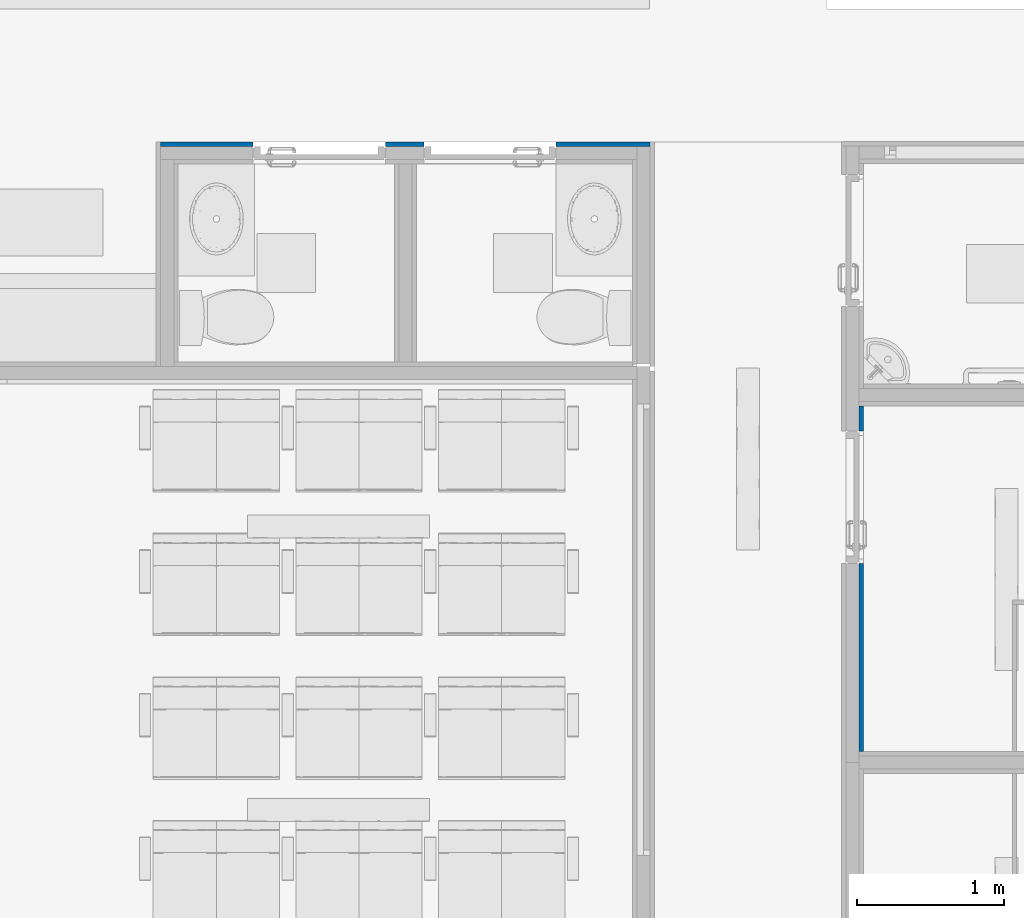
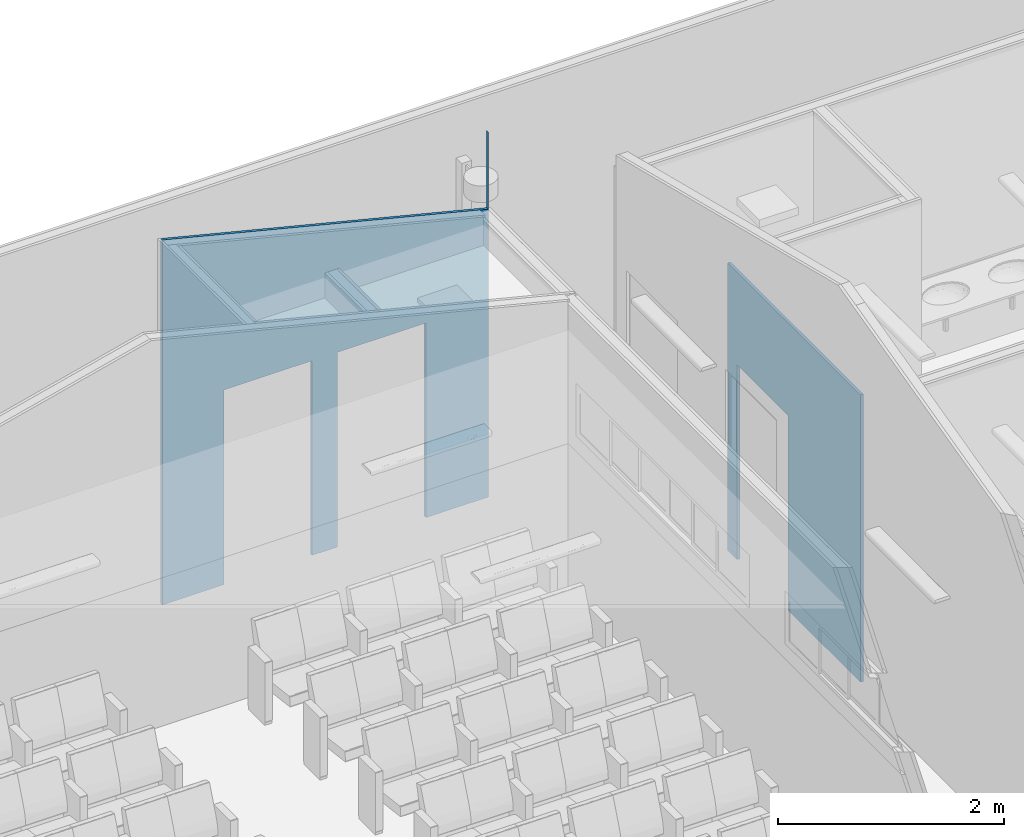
# One storey, part 33 of 155: 2 walls, 3 openings.
"""IFC2X3 building model written with IfcOpenShell, lengths in metres."""

from ifc_helpers import new_model, entity, si_unit, converted_unit, derived_unit, direction, frame, frame_2d, origin, place, context, subcontext, project, spatial, polyline, rectangle, extrude, clip, bounded_halfspace, material, layer, layer_set, layer_usage, type_object, element, save


model = new_model("IFC2X3")

# Units and contexts
model_context = context("Model", 3, precision=1e-05, world=origin(), true_north=direction((6.12303176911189e-17, 1.0)))
body_context = subcontext(model_context, "Body", "Model", "MODEL_VIEW")
ifc_project = project(units=[si_unit("LENGTHUNIT", "METRE"), si_unit("AREAUNIT", "SQUARE_METRE"), si_unit("VOLUMEUNIT", "CUBIC_METRE"), converted_unit("PLANEANGLEUNIT", "DEGREE", entity("IfcRatioMeasure", 0.0174532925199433), si_unit("PLANEANGLEUNIT", "RADIAN"), dimensions=[0, 0, 0, 0, 0, 0, 0]), si_unit("MASSUNIT", "GRAM", prefix="KILO"), derived_unit("MASSDENSITYUNIT", [(si_unit("MASSUNIT", "GRAM", prefix="KILO"), 1), (si_unit("LENGTHUNIT", "METRE"), -3)]), si_unit("TIMEUNIT", "SECOND"), si_unit("FREQUENCYUNIT", "HERTZ"), si_unit("THERMODYNAMICTEMPERATUREUNIT", "DEGREE_CELSIUS"), derived_unit("THERMALTRANSMITTANCEUNIT", [(si_unit("MASSUNIT", "GRAM", prefix="KILO"), 1), (si_unit("THERMODYNAMICTEMPERATUREUNIT", "KELVIN"), -1), (si_unit("TIMEUNIT", "SECOND"), -3)]), derived_unit("VOLUMETRICFLOWRATEUNIT", [(si_unit("LENGTHUNIT", "METRE"), 3), (si_unit("TIMEUNIT", "SECOND"), -1)]), si_unit("ELECTRICCURRENTUNIT", "AMPERE"), si_unit("ELECTRICVOLTAGEUNIT", "VOLT"), si_unit("POWERUNIT", "WATT"), si_unit("FORCEUNIT", "NEWTON", prefix="KILO"), si_unit("ILLUMINANCEUNIT", "LUX"), si_unit("LUMINOUSFLUXUNIT", "LUMEN"), si_unit("LUMINOUSINTENSITYUNIT", "CANDELA"), derived_unit("USERDEFINED", [(si_unit("MASSUNIT", "GRAM", prefix="KILO"), -1), (si_unit("LENGTHUNIT", "METRE"), -2), (si_unit("TIMEUNIT", "SECOND"), 3), (si_unit("LUMINOUSFLUXUNIT", "LUMEN"), 1)]), derived_unit("LINEARVELOCITYUNIT", [(si_unit("LENGTHUNIT", "METRE"), 1), (si_unit("TIMEUNIT", "SECOND"), -1)]), si_unit("PRESSUREUNIT", "PASCAL"), derived_unit("USERDEFINED", [(si_unit("LENGTHUNIT", "METRE"), -2), (si_unit("MASSUNIT", "GRAM", prefix="KILO"), 1), (si_unit("TIMEUNIT", "SECOND"), -2)])], contexts=[model_context])

# Site, building, storey
site_placement = place(None, frame((26.9889013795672, -17.5624287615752, 0.0)))
site = spatial("IfcSite", under=ifc_project, at=site_placement, Name="Default", CompositionType="ELEMENT")
building_placement = place(site_placement, origin())
building = spatial("IfcBuilding", under=site, at=building_placement, Name="C. C. L. Monsenhor Antônio Sampaio", CompositionType="ELEMENT")
storey_placement = place(building_placement, frame((0.0, 0.0, 1.19999999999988)))
storey = spatial("IfcBuildingStorey", under=building, at=storey_placement, Name="Nível 1.2", CompositionType="ELEMENT", Elevation=1.19999999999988)

# Wall, opening
ifc_material_1 = material(Name=".CERÂMICA 10x10 BRANCA")
ifc_layer_1 = layer(ifc_material_1, 0.0035)
ifc_material_2 = material(Name="Argamassa Colante")
ifc_layer_2 = layer(ifc_material_2, 0.02)
ifc_material_3 = material(Name="4")
ifc_layer_3 = layer(ifc_material_3, 0.0015)
ifc_material_4 = material(Name="3")
ifc_layer_4 = layer(ifc_material_4, 0.005)
ifc_layer_set_1 = layer_set([ifc_layer_1, ifc_layer_2, ifc_layer_3, ifc_layer_4], Name="Parede básica:ECeramica branca 10x10cm")
ifc_layer_usage_1 = layer_usage(ifc_layer_set_1, "AXIS2", "POSITIVE", -0.015)
wall_type_1 = type_object("IfcWallType", Name="Parede básica:ECeramica branca 10x10cm", PredefinedType="STANDARD", material=ifc_layer_set_1)
wall_1_placement = place(storey_placement, frame((-4.43555229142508, -12.6030663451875, 0.0), z_axis=(0.0, 0.0, 1.0), x_axis=(0.0, 1.0, 0.0)))
wall_1 = element("IfcWallStandardCase", 1, at=wall_1_placement, inside=storey, type_object=wall_type_1, material=ifc_layer_usage_1, Name="Parede básica:ECeramica branca 10x10cm", ObjectType="Parede básica:ECeramica branca 10x10cm", context=body_context, shape_type="SweptSolid", body=[
    extrude(rectangle(XDim=2.35000000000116, YDim=0.0299999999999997, at=frame_2d((1.17500000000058, 0.0), x_axis=(-1.0, 0.0))), origin(), (0.0, 0.0, 1.0), 3.10000000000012),
])
opening_1_placement = place(wall_1_placement, origin())
element("IfcOpeningElement", 2, at=opening_1_placement, cuts=wall_1, Name="Parede básica:ECeramica branca 10x10cm", ObjectType="Opening", context=body_context, shape_type="SweptSolid", body=[
    extrude(rectangle(XDim=2.09999999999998, YDim=0.899999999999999, at=frame_2d((0.0, 0.0), x_axis=(0.0, 1.0))), frame((1.73000000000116, -1.509, 1.04999999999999), z_axis=(0.0, 1.0, 0.0), x_axis=(-1.0, 0.0, 0.0)), (0.0, 0.0, 1.0), 3.048),
])

# Wall, openings
ifc_material_5 = material(Name="Acabamento amarelo")
ifc_layer_5 = layer(ifc_material_5, 0.0035)
ifc_material_6 = material(Name="Massa corrida")
ifc_layer_6 = layer(ifc_material_6, 0.02)
ifc_layer_7 = layer(ifc_material_3, 0.0015)
ifc_layer_8 = layer(ifc_material_4, 0.005)
ifc_layer_set_2 = layer_set([ifc_layer_5, ifc_layer_6, ifc_layer_7, ifc_layer_8], Name="Parede básica:EPintura amarela")
ifc_layer_usage_2 = layer_usage(ifc_layer_set_2, "AXIS2", "POSITIVE", -0.015)
wall_type_2 = type_object("IfcWallType", Name="Parede básica:EPintura amarela", PredefinedType="STANDARD", material=ifc_layer_set_2)
wall_2_placement = place(storey_placement, frame((-5.87055229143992, -8.47189236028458, 0.0), z_axis=(0.0, 0.0, 1.0), x_axis=(-1.0, 0.0, 0.0)))
wall_2 = element("IfcWallStandardCase", 3, at=wall_2_placement, inside=storey, type_object=wall_type_2, material=ifc_layer_usage_2, Name="Parede básica:EPintura amarela", ObjectType="Parede básica:EPintura amarela", context=body_context, shape_type="Clipping", body=[
    clip(extrude(rectangle(XDim=3.33000000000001, YDim=0.0299999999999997, at=frame_2d((1.665, -9.80118763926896e-17), x_axis=(-1.0, 0.0))), origin(), (0.0, 0.0, 1.0), 3.93818098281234), bounded_halfspace(frame((0.00152963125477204, -0.0149999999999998, 3.10606339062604), z_axis=(-0.242535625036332, 0.0, 0.970142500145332), x_axis=(0.0, -1.0, 0.0)), False, frame((0.00152963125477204, -0.0149999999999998, 3.10606339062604)), polyline([(0.0, 0.0), (3.32847036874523, 0.0), (3.32847036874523, 0.0300000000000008), (0.0, 0.0299999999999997), (0.0, 0.0)]))),
])
opening_2_placement = place(wall_2_placement, origin())
element("IfcOpeningElement", 4, at=opening_2_placement, cuts=wall_2, Name="Parede básica:EPintura amarela", ObjectType="Opening", context=body_context, shape_type="SweptSolid", body=[
    extrude(rectangle(XDim=2.09999999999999, YDim=0.900000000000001, at=frame_2d((0.0, -1.88737914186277e-15), x_axis=(0.0, 1.0))), frame((1.09, 0.0149999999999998, 1.05), z_axis=(0.0, -1.0, 0.0), x_axis=(1.0, 0.0, 0.0)), (0.0, 0.0, 1.0), 0.03),
])
opening_3_placement = place(wall_2_placement, origin())
element("IfcOpeningElement", 5, at=opening_3_placement, cuts=wall_2, Name="Parede básica:EPintura amarela", ObjectType="Opening", context=body_context, shape_type="SweptSolid", body=[
    extrude(rectangle(XDim=2.09999999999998, YDim=0.900000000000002, at=frame_2d((-5.55111512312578e-16, 0.0), x_axis=(0.0, 1.0))), frame((2.25, 0.0149999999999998, 1.05), z_axis=(0.0, -1.0, 0.0), x_axis=(1.0, 0.0, 0.0)), (0.0, 0.0, 1.0), 0.03),
])

save(model, "model.ifc")
